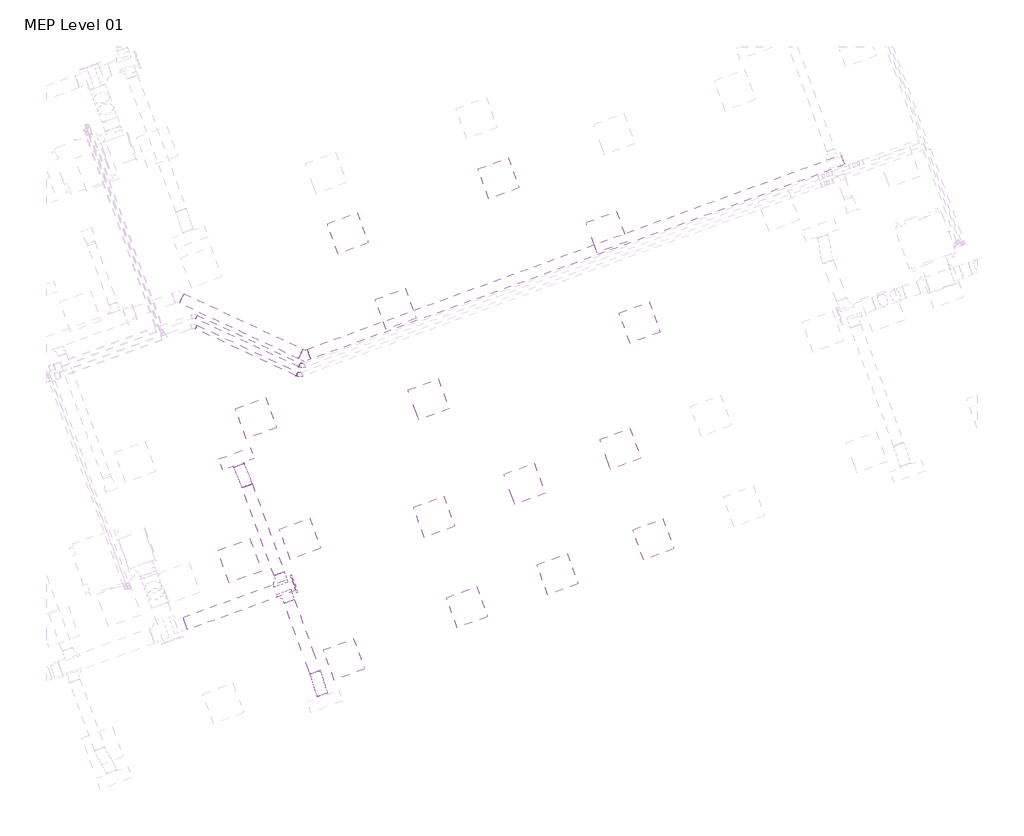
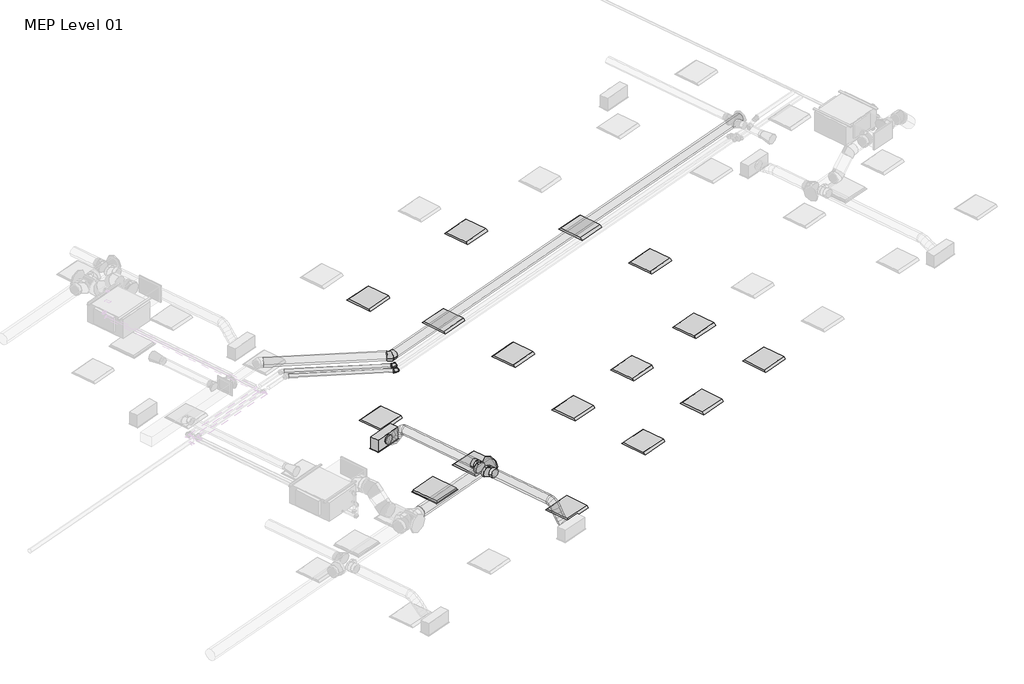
# One storey, part 24 of 29: 15 light fixtures, 7 duct segments, 4 duct fittings, 2 air terminals, 2 pipe fittings, 2 pipe segments.
"""IFC4 building model written with IfcOpenShell, lengths in millimetres."""

from ifc_helpers import new_model, si_unit, point, frame, frame_2d, origin, place, context, project, spatial, circle_curve, ellipse_curve, trimmed, segment, composite_curve, outline, extrude, transform, mapped, element, save
from ifc_brep_helpers import plane_surface, cylinder_surface, advanced_brep
from components import return_grille_rectangular_hosted_standard_7b12617c, supply_diffuser_with_plenum_linear_slot_hosted_8e4f2f20, dw144_round_blank_end_standard_9aa061e7, dw144_round_segmented_bend_slip_joint_standard_e64af1a0, dw144_round_shoe_branch_slip_joint_standard_559552f4, light_fixture_600x600_230_1c7c1157, light_fixture_600x600_230_b730b5ca, elbow_threaded_gmi_standard_79e06f2a

model = new_model("IFC4")

# Units and contexts
model_context = context("Model", 3, world=origin())
ifc_project = project(units=[si_unit("LENGTHUNIT", "METRE", prefix="MILLI")], contexts=[model_context])

# Site, building, storey
site = spatial("IfcSite", under=ifc_project)
building = spatial("IfcBuilding", under=site)
storey = spatial("IfcBuildingStorey", under=building, Name="MEP Level 01", Elevation=3900.0)

# Air terminals
placement = place(None, origin())
return_grille_rectangular_hosted_standard_shape = return_grille_rectangular_hosted_standard_7b12617c(model_context)
element("IfcAirTerminal", 1, ObjectType="Return Grille - Rectangular - Hosted : Standard", at=placement, inside=storey, context=model_context, shape_type="MappedRepresentation", body=[
    mapped(return_grille_rectangular_hosted_standard_shape, transform((48064.0365319, 9235.5552547, 6500.0), x_axis=(0.939692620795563, 0.34202014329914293, 0.0), y_axis=(0.34202014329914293, -0.939692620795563, 0.0), z_axis=(0.0, 0.0, -1.0))),
])
supply_diffuser_with_plenum_linear_slot_hosted_shape = supply_diffuser_with_plenum_linear_slot_hosted_8e4f2f20(model_context)
element("IfcAirTerminal", 2, ObjectType="Supply Diffuser with Plenum - Linear Slot - Hosted : 600mmx193.8mm-200 In Inlet  4-Slot", at=placement, inside=storey, context=model_context, shape_type="MappedRepresentation", body=[
    mapped(supply_diffuser_with_plenum_linear_slot_hosted_shape, transform((48007.2628307, 11142.0221269, 6500.0), x_axis=(0.9396926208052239, 0.3420201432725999, 0.0), y_axis=(0.3420201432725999, -0.9396926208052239, 0.0), z_axis=(0.0, 0.0, -1.0))),
])

# Duct fittings
dw144_round_blank_end_standard_shape = dw144_round_blank_end_standard_9aa061e7(model_context)
element("IfcDuctFitting", 3, ObjectType="DW144 Round Blank End : Standard", at=placement, inside=storey, context=model_context, shape_type="MappedRepresentation", body=[
    mapped(dw144_round_blank_end_standard_shape, transform((49072.7310347, 8798.1556694, 7052.2088531), x_axis=(0.9396926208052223, 0.3420201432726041, 0.0), y_axis=(-0.3420201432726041, 0.9396926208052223, 0.0), z_axis=(0.0, 0.0, 1.0))),
])
dw144_round_segmented_bend_slip_joint_standard_shape = dw144_round_segmented_bend_slip_joint_standard_e64af1a0(model_context)
element("IfcDuctFitting", 4, ObjectType="DW144 Round Segmented Bend - Slip Joint : Standard", at=placement, inside=storey, context=model_context, shape_type="MappedRepresentation", body=[
    mapped(dw144_round_segmented_bend_slip_joint_standard_shape, transform((49279.3686987, 13067.8757559, 7000.0), x_axis=(0.9063077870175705, -0.42261826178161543, 0.0), y_axis=(0.42261826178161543, 0.9063077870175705, 0.0), z_axis=(0.0, 0.0, 1.0))),
])
dw144_round_shoe_branch_slip_joint_standard_shape = dw144_round_shoe_branch_slip_joint_standard_559552f4(model_context)
element("IfcDuctFitting", 5, ObjectType="DW144 Round Shoe Branch - Slip Joint : Standard", at=placement, inside=storey, context=model_context, shape_type="MappedRepresentation", body=[
    mapped(dw144_round_shoe_branch_slip_joint_standard_shape, transform((48939.2384692, 8616.5461275, 7052.2088531), x_axis=(0.34202014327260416, -0.9396926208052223, 0.0), y_axis=(-0.9396926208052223, -0.34202014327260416, 0.0), z_axis=(0.0, 0.0, -1.0))),
])
element("IfcDuctFitting", 6, ObjectType="DW144 Round Shoe Branch - Slip Joint : Standard", at=placement, inside=storey, context=model_context, shape_type="MappedRepresentation", body=[
    mapped(dw144_round_shoe_branch_slip_joint_standard_shape, transform((48853.7334333, 8851.4692827, 7052.2088531), x_axis=(-0.34202014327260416, 0.9396926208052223, 0.0), y_axis=(-0.9396926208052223, -0.34202014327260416, 0.0), z_axis=(0.0, 0.0, 1.0))),
])

# Duct segments
element("IfcDuctSegment", 7, ObjectType="DW144 Segmented Bend / Shoe Branch", at=placement, inside=storey, context=model_context, shape_type="SweptSolid", body=[
    extrude(outline(composite_curve([segment(trimmed(circle_curve(frame_2d((0.0, 125.0)), 125.0), [point((125.0, 125.0))], [point((0.0, 0.0))], False, "CARTESIAN"), True, "CONTINUOUS"), segment(trimmed(circle_curve(frame_2d((0.0, 125.0)), 125.0), [point((0.0, 0.0))], [point((-125.0, 125.0))], False, "CARTESIAN"), True, "CONTINUOUS"), segment(trimmed(circle_curve(frame_2d((0.0, 125.0)), 125.0), [point((-125.0, 125.0))], [point((0.0, 250.0))], False, "CARTESIAN"), True, "CONTINUOUS"), segment(trimmed(circle_curve(frame_2d((0.0, 125.0)), 125.0), [point((0.0, 250.0))], [point((125.0, 125.0))], False, "CARTESIAN"), True, "CONTINUOUS")], self_intersect=False)), frame((47047.5806818, 8061.0612212, 7177.2088531), z_axis=(0.9396926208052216, 0.34202014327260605, 0.0), x_axis=(0.34202014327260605, -0.9396926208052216, 0.0)), (0.0, 0.0, 1.0), 2155.1199914),
])
element("IfcDuctSegment", 8, ObjectType="DW144 Segmented Bend / Shoe Branch", at=placement, inside=storey, context=model_context, shape_type="SweptSolid", body=[
    extrude(outline(composite_curve([segment(trimmed(circle_curve(frame_2d((0.0, -100.0)), 100.0), [point((-100.0, -100.0))], [point((0.0, 0.0))], False, "CARTESIAN"), True, "CONTINUOUS"), segment(trimmed(circle_curve(frame_2d((0.0, -100.0)), 100.0), [point((0.0, 0.0))], [point((100.0, -100.0))], False, "CARTESIAN"), True, "CONTINUOUS"), segment(trimmed(circle_curve(frame_2d((0.0, -100.0)), 100.0), [point((100.0, -100.0))], [point((0.0, -200.0))], False, "CARTESIAN"), True, "CONTINUOUS"), segment(trimmed(circle_curve(frame_2d((0.0, -100.0)), 100.0), [point((0.0, -200.0))], [point((-100.0, -100.0))], False, "CARTESIAN"), True, "CONTINUOUS")], self_intersect=False)), frame((49472.7898927, 7150.6256391, 6952.2088531), z_axis=(-0.3420201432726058, 0.9396926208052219, 0.0), x_axis=(0.9396926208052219, 0.3420201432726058, 0.0)), (0.0, 0.0, 1.0), 1410.0),
])
element("IfcDuctSegment", 9, ObjectType="DW144 Segmented Bend / Shoe Branch", at=placement, inside=storey, context=model_context, shape_type="SweptSolid", body=[
    extrude(outline(composite_curve([segment(trimmed(circle_curve(frame_2d((0.0, 100.0)), 100.0), [point((99.9999999, 100.0))], [point((0.0, 0.0))], False, "CARTESIAN"), True, "CONTINUOUS"), segment(trimmed(circle_curve(frame_2d((0.0, 100.0)), 100.0), [point((0.0, 0.0))], [point((-100.0, 100.0))], False, "CARTESIAN"), True, "CONTINUOUS"), segment(trimmed(circle_curve(frame_2d((0.0, 100.0)), 100.0), [point((-100.0, 100.0))], [point((0.0, 200.0))], False, "CARTESIAN"), True, "CONTINUOUS"), segment(trimmed(circle_curve(frame_2d((0.0, 100.0)), 100.0), [point((0.0, 200.0))], [point((99.9999999, 100.0))], False, "CARTESIAN"), True, "CONTINUOUS")], self_intersect=False)), frame((48802.4304119, 8992.4231759, 7152.2088531), z_axis=(-0.3420201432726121, 0.9396926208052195, 0.0), x_axis=(0.9396926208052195, 0.3420201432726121, 0.0)), (0.0, 0.0, 1.0), 1749.637173),
])
element("IfcDuctSegment", 10, ObjectType="DW144 Segmented Bend / Shoe Branch", at=placement, inside=storey, context=model_context, shape_type="SweptSolid", body=[
    extrude(outline(composite_curve([segment(trimmed(circle_curve(frame_2d((0.0, 100.0)), 100.0), [point((100.0, 100.0))], [point((0.0, 0.0))], False, "CARTESIAN"), True, "CONTINUOUS"), segment(trimmed(circle_curve(frame_2d((0.0, 100.0)), 100.0), [point((0.0, 0.0))], [point((-99.9999999, 100.0))], False, "CARTESIAN"), True, "CONTINUOUS"), segment(trimmed(circle_curve(frame_2d((0.0, 100.0)), 100.0), [point((-99.9999999, 100.0))], [point((0.0, 200.0))], False, "CARTESIAN"), True, "CONTINUOUS"), segment(trimmed(circle_curve(frame_2d((0.0, 100.0)), 100.0), [point((0.0, 200.0))], [point((100.0, 100.0))], False, "CARTESIAN"), True, "CONTINUOUS")], self_intersect=False)), frame((49357.2153843, 13096.2096323, 7100.0), z_axis=(0.9396926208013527, 0.34202014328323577, 0.0), x_axis=(0.34202014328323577, -0.9396926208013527, 0.0)), (0.0, 0.0, 1.0), 10617.3976502),
])
element("IfcDuctSegment", 11, ObjectType="DW144 Segmented Bend / Shoe Branch", at=placement, inside=storey, context=model_context, shape_type="SweptSolid", body=[
    extrude(outline(composite_curve([segment(trimmed(circle_curve(frame_2d((0.0, 100.0)), 100.0), [point((100.0, 100.0))], [point((0.0, 0.0))], False, "CARTESIAN"), True, "CONTINUOUS"), segment(trimmed(circle_curve(frame_2d((0.0, 100.0)), 100.0), [point((0.0, 0.0))], [point((-100.0, 100.0))], False, "CARTESIAN"), True, "CONTINUOUS"), segment(trimmed(circle_curve(frame_2d((0.0, 100.0)), 100.0), [point((-100.0, 100.0))], [point((0.0, 200.0))], False, "CARTESIAN"), True, "CONTINUOUS"), segment(trimmed(circle_curve(frame_2d((0.0, 100.0)), 100.0), [point((0.0, 200.0))], [point((100.0, 100.0))], False, "CARTESIAN"), True, "CONTINUOUS")], self_intersect=False)), frame((49204.2877033, 13102.886599, 7100.0), z_axis=(-0.9063077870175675, 0.4226182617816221, 0.0), x_axis=(0.4226182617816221, 0.9063077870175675, 0.0)), (0.0, 0.0, 1.0), 2451.965434),
])
element("IfcDuctSegment", 12, ObjectType="Flex - Round", at=placement, inside=storey, context=model_context, shape_type="AdvancedBrep", body=[
    advanced_brep(
    [(49566.7591548, 7184.8276534, 7052.2088531), (49472.7898927, 7150.6256391, 6952.2088531), (49378.8206306, 7116.4236248, 7052.2088531), (49472.7898927, 7150.6256391, 7152.2088531), (49575.2907546, 7161.3872755, 7052.2088531), (49474.6691371, 7145.4624575, 6952.2088531), (49386.9543252, 7094.0764825, 7052.2088531), (49487.5759427, 7110.0013005, 7152.2088531), (49707.2689937, 6762.922244, 6654.4), (49613.2997316, 6728.7202297, 6754.4), (49519.3304695, 6694.5182154, 6654.4), (49613.2997316, 6728.7202297, 6554.4), (49590.0548191, 7119.2485315, 7034.7378026), (49478.7608231, 7133.7842024, 6947.3669579), (49401.0800301, 7053.7597078, 7035.4932053), (49512.374026, 7039.2240369, 7122.8640501), (49608.5697205, 7064.2714613, 6989.165631), (49490.3762668, 7099.2939805, 6918.7769601), (49419.1822461, 7000.0080419, 6990.9368086), (49537.3756998, 6964.9855228, 7061.3254796), (49623.9972059, 7016.1051382, 6925.0457422), (49502.5188441, 7061.3835053, 6868.3098433), (49434.4132473, 6952.455164, 6927.6335492), (49555.8916091, 6907.1767969, 6984.3694481), (49637.861176, 6971.4193261, 6851.881839), (49515.5674695, 7019.3256805, 6799.4487335), (49448.2284483, 6907.9265427, 6854.7270141), (49570.5221548, 6860.0201882, 6907.1601196), (49651.676377, 6926.8907048, 6778.9753039), (49530.1980152, 6972.1690719, 6722.239405), (49462.0924184, 6863.2407305, 6781.5631109), (49583.5707802, 6817.9623635, 6838.2990098), (49666.9073782, 6879.3378269, 6715.6720445), (49548.7139245, 6914.360346, 6645.2833736), (49477.5199037, 6815.0744074, 6717.4432221), (49595.7133575, 6780.0518883, 6787.831893), (49685.0095942, 6825.5861609, 6671.1156478), (49573.7155983, 6840.1218319, 6583.7448031), (49496.0348052, 6760.0973373, 6671.8710505), (49607.3288011, 6745.5616664, 6759.2418952), (49699.1352991, 6785.2693863, 6654.4), (49598.5136816, 6769.3445683, 6554.4), (49510.7988697, 6717.9585933, 6654.4), (49611.4204872, 6733.8834113, 6754.4)],
    [
        (0, 1, circle_curve(frame((49472.7898927, 7150.6256391, 7052.2088531), z_axis=(-0.34202014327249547, 0.939692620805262, 0.0), x_axis=(0.939692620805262, 0.34202014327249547, 0.0)), 100.0)),
        (1, 2, circle_curve(frame((49472.7898927, 7150.6256391, 7052.2088531), z_axis=(-0.34202014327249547, 0.939692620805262, 0.0), x_axis=(0.939692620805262, 0.34202014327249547, 0.0)), 100.0)),
        (2, 3, circle_curve(frame((49472.7898927, 7150.6256391, 7052.2088531), z_axis=(-0.34202014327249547, 0.939692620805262, 0.0), x_axis=(0.939692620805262, 0.34202014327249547, 0.0)), 100.0)),
        (3, 0, circle_curve(frame((49472.7898927, 7150.6256391, 7052.2088531), z_axis=(-0.34202014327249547, 0.939692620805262, 0.0), x_axis=(0.939692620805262, 0.34202014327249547, 0.0)), 100.0)),
        (0, 4),
        (4, 5, ellipse_curve(frame((49481.1225399, 7127.731879, 7052.2088531), z_axis=(-0.3307129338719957, 0.9253388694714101, 0.185410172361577), x_axis=(-0.0918977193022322, 0.1639550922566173, -0.9821779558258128)), 101.7661938, 100.0)),
        (5, 1),
        (5, 6, ellipse_curve(frame((49481.1225399, 7127.731879, 7052.2088531), z_axis=(-0.3307129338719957, 0.9253388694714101, 0.185410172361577), x_axis=(-0.0918977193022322, 0.1639550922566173, -0.9821779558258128)), 101.7661938, 100.0)),
        (6, 2),
        (6, 7, ellipse_curve(frame((49481.1225399, 7127.731879, 7052.2088531), z_axis=(-0.3307129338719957, 0.9253388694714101, 0.185410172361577), x_axis=(-0.0918977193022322, 0.1639550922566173, -0.9821779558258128)), 101.7661938, 100.0)),
        (7, 3),
        (7, 4, ellipse_curve(frame((49481.1225399, 7127.731879, 7052.2088531), z_axis=(-0.3307129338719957, 0.9253388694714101, 0.185410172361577), x_axis=(-0.0918977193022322, 0.1639550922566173, -0.9821779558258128)), 101.7661938, 100.0)),
        (8, 9, circle_curve(frame((49613.2997316, 6728.7202297, 6654.4), z_axis=(0.34202014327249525, -0.9396926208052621, 0.0), x_axis=(0.9396926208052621, 0.34202014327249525, 0.0)), 100.0)),
        (9, 10, circle_curve(frame((49613.2997316, 6728.7202297, 6654.4), z_axis=(0.34202014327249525, -0.9396926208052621, 0.0), x_axis=(0.9396926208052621, 0.34202014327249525, 0.0)), 100.0)),
        (10, 11, circle_curve(frame((49613.2997316, 6728.7202297, 6654.4), z_axis=(0.34202014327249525, -0.9396926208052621, 0.0), x_axis=(0.9396926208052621, 0.34202014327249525, 0.0)), 100.0)),
        (11, 8, circle_curve(frame((49613.2997316, 6728.7202297, 6654.4), z_axis=(0.34202014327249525, -0.9396926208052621, 0.0), x_axis=(0.9396926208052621, 0.34202014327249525, 0.0)), 100.0)),
        (4, 12),
        (12, 13, ellipse_curve(frame((49495.5674246, 7086.5041197, 7035.115504), z_axis=(-0.2824808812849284, 0.8208536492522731, 0.4963908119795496), x_axis=(-0.19498919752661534, 0.45752877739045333, -0.8675520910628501)), 101.0835412, 100.0)),
        (13, 5),
        (13, 14, ellipse_curve(frame((49495.5674246, 7086.5041197, 7035.115504), z_axis=(-0.2824808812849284, 0.8208536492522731, 0.4963908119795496), x_axis=(-0.19498919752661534, 0.45752877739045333, -0.8675520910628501)), 101.0835412, 100.0)),
        (14, 6),
        (14, 15, ellipse_curve(frame((49495.5674246, 7086.5041197, 7035.115504), z_axis=(-0.2824808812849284, 0.8208536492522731, 0.4963908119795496), x_axis=(-0.19498919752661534, 0.45752877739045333, -0.8675520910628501)), 101.0835412, 100.0)),
        (15, 7),
        (15, 12, ellipse_curve(frame((49495.5674246, 7086.5041197, 7035.115504), z_axis=(-0.2824808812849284, 0.8208536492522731, 0.4963908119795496), x_axis=(-0.19498919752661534, 0.45752877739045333, -0.8675520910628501)), 101.0835412, 100.0)),
        (12, 16),
        (16, 17, ellipse_curve(frame((49513.8759833, 7032.1397516, 6990.0512198), z_axis=(-0.22150126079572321, 0.6722448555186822, 0.7064163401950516), x_axis=(-0.26220874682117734, 0.6566735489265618, -0.7071254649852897)), 100.707905, 100.0)),
        (17, 13),
        (17, 18, ellipse_curve(frame((49513.8759833, 7032.1397516, 6990.0512198), z_axis=(-0.22150126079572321, 0.6722448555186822, 0.7064163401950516), x_axis=(-0.26220874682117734, 0.6566735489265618, -0.7071254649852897)), 100.707905, 100.0)),
        (18, 14),
        (18, 19, ellipse_curve(frame((49513.8759833, 7032.1397516, 6990.0512198), z_axis=(-0.22150126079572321, 0.6722448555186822, 0.7064163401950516), x_axis=(-0.26220874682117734, 0.6566735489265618, -0.7071254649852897)), 100.707905, 100.0)),
        (19, 15),
        (19, 16, ellipse_curve(frame((49513.8759833, 7032.1397516, 6990.0512198), z_axis=(-0.22150126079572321, 0.6722448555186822, 0.7064163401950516), x_axis=(-0.26220874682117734, 0.6566735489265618, -0.7071254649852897)), 100.707905, 100.0)),
        (16, 20),
        (20, 21, ellipse_curve(frame((49529.2052266, 6984.2801511, 6926.3396457), z_axis=(-0.17448909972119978, 0.5528501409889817, 0.8148068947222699), x_axis=(-0.2955838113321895, 0.759927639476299, -0.5789129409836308)), 100.1227823, 100.0)),
        (21, 17),
        (21, 22, ellipse_curve(frame((49529.2052266, 6984.2801511, 6926.3396457), z_axis=(-0.17448909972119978, 0.5528501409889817, 0.8148068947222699), x_axis=(-0.2955838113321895, 0.759927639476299, -0.5789129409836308)), 100.1227823, 100.0)),
        (22, 18),
        (22, 23, ellipse_curve(frame((49529.2052266, 6984.2801511, 6926.3396457), z_axis=(-0.17448909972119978, 0.5528501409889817, 0.8148068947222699), x_axis=(-0.2955838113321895, 0.759927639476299, -0.5789129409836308)), 100.1227823, 100.0)),
        (23, 19),
        (23, 20, ellipse_curve(frame((49529.2052266, 6984.2801511, 6926.3396457), z_axis=(-0.17448909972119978, 0.5528501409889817, 0.8148068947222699), x_axis=(-0.2955838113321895, 0.759927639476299, -0.5789129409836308)), 100.1227823, 100.0)),
        (20, 24),
        (24, 25, circle_curve(frame((49543.0448121, 6939.6729344, 6853.3044266), z_axis=(-0.15964109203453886, 0.514548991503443, 0.8424690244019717), x_axis=(0.9481636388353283, 0.31746391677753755, -0.014225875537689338)), 100.0)),
        (25, 21),
        (25, 26, circle_curve(frame((49543.0448121, 6939.6729344, 6853.3044266), z_axis=(-0.15964109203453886, 0.514548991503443, 0.8424690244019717), x_axis=(0.9481636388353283, 0.31746391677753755, -0.014225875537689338)), 100.0)),
        (26, 22),
        (26, 27, circle_curve(frame((49543.0448121, 6939.6729344, 6853.3044266), z_axis=(-0.15964109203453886, 0.514548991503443, 0.8424690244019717), x_axis=(0.9481636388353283, 0.31746391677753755, -0.014225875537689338)), 100.0)),
        (27, 23),
        (27, 24, circle_curve(frame((49543.0448121, 6939.6729344, 6853.3044266), z_axis=(-0.15964109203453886, 0.514548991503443, 0.8424690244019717), x_axis=(0.9481636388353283, 0.31746391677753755, -0.014225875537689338)), 100.0)),
        (24, 28),
        (28, 29, ellipse_curve(frame((49556.8843977, 6895.0657177, 6780.2692074), z_axis=(-0.17448909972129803, 0.5528501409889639, 0.8148068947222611), x_axis=(0.29558381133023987, -0.7599276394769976, 0.5789129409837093)), 100.1227823, 100.0)),
        (29, 25),
        (29, 30, ellipse_curve(frame((49556.8843977, 6895.0657177, 6780.2692074), z_axis=(-0.17448909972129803, 0.5528501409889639, 0.8148068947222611), x_axis=(0.29558381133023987, -0.7599276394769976, 0.5789129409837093)), 100.1227823, 100.0)),
        (30, 26),
        (30, 31, ellipse_curve(frame((49556.8843977, 6895.0657177, 6780.2692074), z_axis=(-0.17448909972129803, 0.5528501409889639, 0.8148068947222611), x_axis=(0.29558381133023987, -0.7599276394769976, 0.5789129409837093)), 100.1227823, 100.0)),
        (31, 27),
        (31, 28, ellipse_curve(frame((49556.8843977, 6895.0657177, 6780.2692074), z_axis=(-0.17448909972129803, 0.5528501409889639, 0.8148068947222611), x_axis=(0.29558381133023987, -0.7599276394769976, 0.5789129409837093)), 100.1227823, 100.0)),
        (28, 32),
        (32, 33, ellipse_curve(frame((49572.213641, 6847.2061172, 6716.5576333), z_axis=(-0.22150126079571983, 0.672244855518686, 0.7064163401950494), x_axis=(0.26220874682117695, -0.656673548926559, 0.7071254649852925)), 100.707905, 100.0)),
        (33, 29),
        (33, 34, ellipse_curve(frame((49572.213641, 6847.2061172, 6716.5576333), z_axis=(-0.22150126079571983, 0.672244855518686, 0.7064163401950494), x_axis=(0.26220874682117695, -0.656673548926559, 0.7071254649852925)), 100.707905, 100.0)),
        (34, 30),
        (34, 35, ellipse_curve(frame((49572.213641, 6847.2061172, 6716.5576333), z_axis=(-0.22150126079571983, 0.672244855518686, 0.7064163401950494), x_axis=(0.26220874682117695, -0.656673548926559, 0.7071254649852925)), 100.707905, 100.0)),
        (35, 31),
        (35, 32, ellipse_curve(frame((49572.213641, 6847.2061172, 6716.5576333), z_axis=(-0.22150126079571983, 0.672244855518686, 0.7064163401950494), x_axis=(0.26220874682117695, -0.656673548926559, 0.7071254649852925)), 100.707905, 100.0)),
        (32, 36),
        (36, 37, ellipse_curve(frame((49590.5221997, 6792.8417491, 6671.4933492), z_axis=(-0.2824808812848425, 0.8208536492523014, 0.49639081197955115), x_axis=(0.1949891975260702, -0.4575287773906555, 0.8675520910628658)), 101.0835412, 100.0)),
        (37, 33),
        (37, 38, ellipse_curve(frame((49590.5221997, 6792.8417491, 6671.4933492), z_axis=(-0.2824808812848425, 0.8208536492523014, 0.49639081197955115), x_axis=(0.1949891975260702, -0.4575287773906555, 0.8675520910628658)), 101.0835412, 100.0)),
        (38, 34),
        (38, 39, ellipse_curve(frame((49590.5221997, 6792.8417491, 6671.4933492), z_axis=(-0.2824808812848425, 0.8208536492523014, 0.49639081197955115), x_axis=(0.1949891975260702, -0.4575287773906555, 0.8675520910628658)), 101.0835412, 100.0)),
        (39, 35),
        (39, 36, ellipse_curve(frame((49590.5221997, 6792.8417491, 6671.4933492), z_axis=(-0.2824808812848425, 0.8208536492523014, 0.49639081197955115), x_axis=(0.1949891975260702, -0.4575287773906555, 0.8675520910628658)), 101.0835412, 100.0)),
        (36, 40),
        (40, 41, ellipse_curve(frame((49604.9670844, 6751.6139898, 6654.4), z_axis=(-0.3307129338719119, 0.92533886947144, 0.18541017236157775), x_axis=(0.09189771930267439, -0.16395509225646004, 0.9821779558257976)), 101.7661938, 100.0)),
        (41, 37),
        (41, 42, ellipse_curve(frame((49604.9670844, 6751.6139898, 6654.4), z_axis=(-0.3307129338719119, 0.92533886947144, 0.18541017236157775), x_axis=(0.09189771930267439, -0.16395509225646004, 0.9821779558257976)), 101.7661938, 100.0)),
        (42, 38),
        (42, 43, ellipse_curve(frame((49604.9670844, 6751.6139898, 6654.4), z_axis=(-0.3307129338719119, 0.92533886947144, 0.18541017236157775), x_axis=(0.09189771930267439, -0.16395509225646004, 0.9821779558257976)), 101.7661938, 100.0)),
        (43, 39),
        (43, 40, ellipse_curve(frame((49604.9670844, 6751.6139898, 6654.4), z_axis=(-0.3307129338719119, 0.92533886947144, 0.18541017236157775), x_axis=(0.09189771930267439, -0.16395509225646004, 0.9821779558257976)), 101.7661938, 100.0)),
        (40, 8),
        (11, 41),
        (10, 42),
        (9, 43),
    ],
    [
        plane_surface(frame((49472.7898927, 7150.6256391, 6952.2088531), z_axis=(-0.3420201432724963, 0.9396926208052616, 0.0), x_axis=(0.9396926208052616, 0.3420201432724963, 0.0))),
        cylinder_surface(frame((49472.7898927, 7150.6256391, 7052.2088531), z_axis=(-0.34202014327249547, 0.939692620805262, 0.0), x_axis=(0.939692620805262, 0.34202014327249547, 0.0)), 100.0),
        plane_surface(frame((49613.2997316, 6728.7202297, 6554.4), z_axis=(0.3420201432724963, -0.9396926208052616, 0.0), x_axis=(0.9396926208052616, 0.3420201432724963, 0.0))),
        cylinder_surface(frame((49481.1225399, 7127.731879, 7052.2088531), z_axis=(-0.30792640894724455, 0.8788658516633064, 0.3643846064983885), x_axis=(0.9434733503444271, 0.33144161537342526, -0.0021196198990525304)), 100.0),
        cylinder_surface(frame((49495.5674246, 7086.5041197, 7035.115504), z_axis=(-0.25097937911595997, 0.7452435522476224, 0.6177551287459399), x_axis=(0.9460155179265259, 0.3240543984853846, -0.006586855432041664)), 100.0),
        cylinder_surface(frame((49513.8759833, 7032.1397516, 6990.0512198), z_axis=(-0.18890914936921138, 0.5897953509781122, 0.7851463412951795), x_axis=(0.9476312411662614, 0.31915076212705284, -0.011739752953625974)), 100.0),
        cylinder_surface(frame((49529.2052266, 6984.2801511, 6926.3396457), z_axis=(-0.15964109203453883, 0.5145489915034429, 0.8424690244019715), x_axis=(0.9481636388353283, 0.31746391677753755, -0.014225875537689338)), 100.0),
        cylinder_surface(frame((49543.0448121, 6939.6729344, 6853.3044266), z_axis=(-0.15964109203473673, 0.5145489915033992, 0.8424690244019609), x_axis=(0.9481636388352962, 0.3174639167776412, -0.014225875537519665)), 100.0),
        cylinder_surface(frame((49556.8843977, 6895.0657177, 6780.2692074), z_axis=(-0.18890914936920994, 0.589795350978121, 0.7851463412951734), x_axis=(0.9476312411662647, 0.31915076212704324, -0.011739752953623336)), 100.0),
        cylinder_surface(frame((49572.213641, 6847.2061172, 6716.5576333), z_axis=(-0.25097937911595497, 0.745243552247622, 0.6177551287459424), x_axis=(0.9460155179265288, 0.32405439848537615, -0.006586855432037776)), 100.0),
        cylinder_surface(frame((49590.5221997, 6792.8417491, 6671.4933492), z_axis=(-0.3079264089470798, 0.8788658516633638, 0.3643846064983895), x_axis=(0.9434733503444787, 0.33144161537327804, -0.002119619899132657)), 100.0),
        cylinder_surface(frame((49604.9670844, 6751.6139898, 6654.4), z_axis=(-0.34202014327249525, 0.9396926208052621, 0.0), x_axis=(0.9396926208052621, 0.34202014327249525, 0.0)), 100.0),
    ],
    [
        (0, [[1, 2, 3, 4]]),
        (1, [[-1, 5, 6, 7]]),
        (1, [[-2, -7, 8, 9]]),
        (1, [[-3, -9, 10, 11]]),
        (1, [[-4, -11, 12, -5]]),
        (2, [[13, 14, 15, 16]]),
        (3, [[-6, 17, 18, 19]]),
        (3, [[-8, -19, 20, 21]]),
        (3, [[-10, -21, 22, 23]]),
        (3, [[-12, -23, 24, -17]]),
        (4, [[-18, 25, 26, 27]]),
        (4, [[-20, -27, 28, 29]]),
        (4, [[-22, -29, 30, 31]]),
        (4, [[-24, -31, 32, -25]]),
        (5, [[-26, 33, 34, 35]]),
        (5, [[-28, -35, 36, 37]]),
        (5, [[-30, -37, 38, 39]]),
        (5, [[-32, -39, 40, -33]]),
        (6, [[-34, 41, 42, 43]]),
        (6, [[-36, -43, 44, 45]]),
        (6, [[-38, -45, 46, 47]]),
        (6, [[-40, -47, 48, -41]]),
        (7, [[-42, 49, 50, 51]]),
        (7, [[-44, -51, 52, 53]]),
        (7, [[-46, -53, 54, 55]]),
        (7, [[-48, -55, 56, -49]]),
        (8, [[-50, 57, 58, 59]]),
        (8, [[-52, -59, 60, 61]]),
        (8, [[-54, -61, 62, 63]]),
        (8, [[-56, -63, 64, -57]]),
        (9, [[-58, 65, 66, 67]]),
        (9, [[-60, -67, 68, 69]]),
        (9, [[-62, -69, 70, 71]]),
        (9, [[-64, -71, 72, -65]]),
        (10, [[-66, 73, 74, 75]]),
        (10, [[-68, -75, 76, 77]]),
        (10, [[-70, -77, 78, 79]]),
        (10, [[-72, -79, 80, -73]]),
        (11, [[-74, 81, -16, 82]]),
        (11, [[-76, -82, -15, 83]]),
        (11, [[-78, -83, -14, 84]]),
        (11, [[-80, -84, -13, -81]]),
    ],
),
])
element("IfcDuctSegment", 13, ObjectType="Flex - Round", at=placement, inside=storey, context=model_context, shape_type="AdvancedBrep", body=[
    advanced_brep(
    [(48110.0499932, 10602.3423021, 7052.2088531), (48204.0192553, 10636.5443165, 6952.2088531), (48297.9885173, 10670.7463308, 7052.2088531), (48204.0192553, 10636.5443165, 7152.2088531), (48101.5456158, 10625.7078869, 7052.2088531), (48202.4089934, 10640.9684745, 6952.2088531), (48289.0550212, 10695.2909097, 7052.2088531), (48188.1916436, 10680.030322, 7152.2088531), (47957.3799651, 10986.6937338, 6654.4), (48051.3492272, 11020.8957481, 6754.4), (48145.3184893, 11055.0977624, 6654.4), (48051.3492272, 11020.8957481, 6554.4), (48087.951701, 10661.5859336, 7035.5408326), (48199.9610053, 10647.4293824, 6949.207281), (48274.7673369, 10733.0000031, 7034.6901753), (48162.7580326, 10747.1565543, 7121.0237269), (48068.5844947, 10710.8661941, 6990.9995344), (48187.9005637, 10678.1174278, 6921.4703054), (48254.9453269, 10783.4375213, 6989.1029053), (48135.6292579, 10816.1862876, 7058.6321343), (48051.150449, 10753.1809184, 6927.7131973), (48174.2305242, 10711.2964134, 6871.8474731), (48237.2769936, 10826.3208924, 6924.9660941), (48114.1969184, 10868.2053974, 6980.8318183), (48034.650821, 10792.0796675, 6854.8098789), (48158.6900873, 10747.9338184, 6803.1823241), (48220.7176615, 10865.3603971, 6851.7989742), (48096.6783951, 10909.5062462, 6903.426529), (48018.0914889, 10831.1191721, 6781.642759), (48141.171564, 10789.2346672, 6725.7770348), (48204.2180334, 10904.2591462, 6778.8956558), (48081.1379582, 10946.1436511, 6834.7613801), (48000.4231556, 10874.0025433, 6717.5059479), (48119.7392246, 10841.253777, 6647.9767188), (48186.7839878, 10946.5738704, 6715.6093187), (48067.4679188, 10979.3226367, 6785.1385478), (47980.6011455, 10924.4400615, 6671.9186778), (48092.6104499, 10910.2835103, 6585.5851262), (48167.4167815, 10995.8541309, 6671.0680205), (48055.4074771, 11010.0106822, 6757.4015721), (47966.3134612, 10962.1491549, 6654.4), (48067.1768388, 10977.4097425, 6554.4), (48153.8228666, 11031.7321777, 6654.4), (48052.959489, 11016.47159, 6754.4)],
    [
        (0, 1, circle_curve(frame((48204.0192553, 10636.5443165, 7052.2088531), z_axis=(0.34202014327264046, -0.9396926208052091, 0.0), x_axis=(-0.9396926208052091, -0.34202014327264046, 0.0)), 100.0)),
        (1, 2, circle_curve(frame((48204.0192553, 10636.5443165, 7052.2088531), z_axis=(0.34202014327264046, -0.9396926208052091, 0.0), x_axis=(-0.9396926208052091, -0.34202014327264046, 0.0)), 100.0)),
        (2, 3, circle_curve(frame((48204.0192553, 10636.5443165, 7052.2088531), z_axis=(0.34202014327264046, -0.9396926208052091, 0.0), x_axis=(-0.9396926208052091, -0.34202014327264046, 0.0)), 100.0)),
        (3, 0, circle_curve(frame((48204.0192553, 10636.5443165, 7052.2088531), z_axis=(0.34202014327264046, -0.9396926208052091, 0.0), x_axis=(-0.9396926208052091, -0.34202014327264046, 0.0)), 100.0)),
        (0, 4),
        (4, 5, ellipse_curve(frame((48195.3003185, 10660.4993983, 7052.2088531), z_axis=(0.3406289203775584, -0.9179124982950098, 0.20349099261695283), x_axis=(0.0418738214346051, -0.20140838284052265, -0.9786118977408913)), 102.1390414, 100.0)),
        (5, 1),
        (5, 6, ellipse_curve(frame((48195.3003185, 10660.4993983, 7052.2088531), z_axis=(0.3406289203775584, -0.9179124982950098, 0.20349099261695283), x_axis=(0.0418738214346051, -0.20140838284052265, -0.9786118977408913)), 102.1390414, 100.0)),
        (6, 2),
        (6, 7, ellipse_curve(frame((48195.3003185, 10660.4993983, 7052.2088531), z_axis=(0.3406289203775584, -0.9179124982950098, 0.20349099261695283), x_axis=(0.0418738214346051, -0.20140838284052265, -0.9786118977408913)), 102.1390414, 100.0)),
        (7, 3),
        (7, 4, ellipse_curve(frame((48195.3003185, 10660.4993983, 7052.2088531), z_axis=(0.3406289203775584, -0.9179124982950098, 0.20349099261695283), x_axis=(0.0418738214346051, -0.20140838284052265, -0.9786118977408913)), 102.1390414, 100.0)),
        (8, 9, circle_curve(frame((48051.3492272, 11020.8957481, 6654.4), z_axis=(-0.3420201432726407, 0.9396926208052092, 0.0), x_axis=(-0.939692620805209, -0.34202014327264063, 0.0)), 100.0)),
        (9, 10, circle_curve(frame((48051.3492272, 11020.8957481, 6654.4), z_axis=(-0.3420201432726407, 0.9396926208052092, 0.0), x_axis=(-0.939692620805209, -0.34202014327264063, 0.0)), 100.0)),
        (10, 11, circle_curve(frame((48051.3492272, 11020.8957481, 6654.4), z_axis=(-0.3420201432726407, 0.9396926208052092, 0.0), x_axis=(-0.939692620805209, -0.34202014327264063, 0.0)), 100.0)),
        (11, 8, circle_curve(frame((48051.3492272, 11020.8957481, 6654.4), z_axis=(-0.3420201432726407, 0.9396926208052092, 0.0), x_axis=(-0.939692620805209, -0.34202014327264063, 0.0)), 100.0)),
        (4, 12),
        (12, 13, ellipse_curve(frame((48181.359519, 10697.2929683, 7035.115504), z_axis=(0.30563861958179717, -0.7932625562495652, 0.5266113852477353), x_axis=(0.15609776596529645, -0.5038483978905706, -0.8495706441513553)), 101.0584433, 100.0)),
        (13, 5),
        (13, 14, ellipse_curve(frame((48181.359519, 10697.2929683, 7035.115504), z_axis=(0.30563861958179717, -0.7932625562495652, 0.5266113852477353), x_axis=(0.15609776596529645, -0.5038483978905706, -0.8495706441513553)), 101.0584433, 100.0)),
        (14, 6),
        (14, 15, ellipse_curve(frame((48181.359519, 10697.2929683, 7035.115504), z_axis=(0.30563861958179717, -0.7932625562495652, 0.5266113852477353), x_axis=(0.15609776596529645, -0.5038483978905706, -0.8495706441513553)), 101.0584433, 100.0)),
        (15, 7),
        (15, 12, ellipse_curve(frame((48181.359519, 10697.2929683, 7035.115504), z_axis=(0.30563861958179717, -0.7932625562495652, 0.5266113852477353), x_axis=(0.15609776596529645, -0.5038483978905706, -0.8495706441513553)), 101.0584433, 100.0)),
        (12, 16),
        (16, 17, ellipse_curve(frame((48161.7649108, 10747.1518577, 6990.0512198), z_axis=(0.2534740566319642, -0.6317684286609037, 0.7325432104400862), x_axis=(0.23137065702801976, -0.695699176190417, -0.6800516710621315)), 100.7586488, 100.0)),
        (17, 13),
        (17, 18, ellipse_curve(frame((48161.7649108, 10747.1518577, 6990.0512198), z_axis=(0.2534740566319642, -0.6317684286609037, 0.7325432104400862), x_axis=(0.23137065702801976, -0.695699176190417, -0.6800516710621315)), 100.7586488, 100.0)),
        (18, 14),
        (18, 19, ellipse_curve(frame((48161.7649108, 10747.1518577, 6990.0512198), z_axis=(0.2534740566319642, -0.6317684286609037, 0.7325432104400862), x_axis=(0.23137065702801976, -0.695699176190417, -0.6800516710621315)), 100.7586488, 100.0)),
        (19, 15),
        (19, 16, ellipse_curve(frame((48161.7649108, 10747.1518577, 6990.0512198), z_axis=(0.2534740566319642, -0.6317684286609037, 0.7325432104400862), x_axis=(0.23137065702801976, -0.695699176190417, -0.6800516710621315)), 100.7586488, 100.0)),
        (16, 20),
        (20, 21, ellipse_curve(frame((48144.2137213, 10789.7509054, 6926.3396457), z_axis=(0.20978625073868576, -0.5023580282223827, 0.8388242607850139), x_axis=(0.2716085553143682, -0.7942072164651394, -0.5435657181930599)), 100.127598, 100.0)),
        (21, 17),
        (21, 22, ellipse_curve(frame((48144.2137213, 10789.7509054, 6926.3396457), z_axis=(0.20978625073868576, -0.5023580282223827, 0.8388242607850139), x_axis=(0.2716085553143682, -0.7942072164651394, -0.5435657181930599)), 100.127598, 100.0)),
        (22, 18),
        (22, 23, ellipse_curve(frame((48144.2137213, 10789.7509054, 6926.3396457), z_axis=(0.20978625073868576, -0.5023580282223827, 0.8388242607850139), x_axis=(0.2716085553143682, -0.7942072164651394, -0.5435657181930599)), 100.127598, 100.0)),
        (23, 19),
        (23, 20, ellipse_curve(frame((48144.2137213, 10789.7509054, 6926.3396457), z_axis=(0.20978625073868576, -0.5023580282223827, 0.8388242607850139), x_axis=(0.2716085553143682, -0.7942072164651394, -0.5435657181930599)), 100.127598, 100.0)),
        (20, 24),
        (24, 25, circle_curve(frame((48127.6842412, 10828.7200323, 6853.3044266), z_axis=(0.1958111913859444, -0.46163527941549, 0.8651883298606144), x_axis=(-0.9303342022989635, -0.3664036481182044, 0.015054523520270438)), 100.0)),
        (25, 21),
        (25, 26, circle_curve(frame((48127.6842412, 10828.7200323, 6853.3044266), z_axis=(0.1958111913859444, -0.46163527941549, 0.8651883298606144), x_axis=(-0.9303342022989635, -0.3664036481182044, 0.015054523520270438)), 100.0)),
        (26, 22),
        (26, 27, circle_curve(frame((48127.6842412, 10828.7200323, 6853.3044266), z_axis=(0.1958111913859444, -0.46163527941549, 0.8651883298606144), x_axis=(-0.9303342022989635, -0.3664036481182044, 0.015054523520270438)), 100.0)),
        (27, 23),
        (27, 24, circle_curve(frame((48127.6842412, 10828.7200323, 6853.3044266), z_axis=(0.1958111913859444, -0.46163527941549, 0.8651883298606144), x_axis=(-0.9303342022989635, -0.3664036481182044, 0.015054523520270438)), 100.0)),
        (24, 28),
        (28, 29, ellipse_curve(frame((48111.1547611, 10867.6891592, 6780.2692074), z_axis=(0.2097862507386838, -0.5023580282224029, 0.8388242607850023), x_axis=(-0.2716085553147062, 0.7942072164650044, 0.5435657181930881)), 100.127598, 100.0)),
        (29, 25),
        (29, 30, ellipse_curve(frame((48111.1547611, 10867.6891592, 6780.2692074), z_axis=(0.2097862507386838, -0.5023580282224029, 0.8388242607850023), x_axis=(-0.2716085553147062, 0.7942072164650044, 0.5435657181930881)), 100.127598, 100.0)),
        (30, 26),
        (30, 31, ellipse_curve(frame((48111.1547611, 10867.6891592, 6780.2692074), z_axis=(0.2097862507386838, -0.5023580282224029, 0.8388242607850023), x_axis=(-0.2716085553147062, 0.7942072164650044, 0.5435657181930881)), 100.127598, 100.0)),
        (31, 27),
        (31, 28, ellipse_curve(frame((48111.1547611, 10867.6891592, 6780.2692074), z_axis=(0.2097862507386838, -0.5023580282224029, 0.8388242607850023), x_axis=(-0.2716085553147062, 0.7942072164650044, 0.5435657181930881)), 100.127598, 100.0)),
        (28, 32),
        (32, 33, ellipse_curve(frame((48093.6035717, 10910.2882069, 6716.5576333), z_axis=(0.25347405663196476, -0.6317684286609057, 0.7325432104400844), x_axis=(-0.23137065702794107, 0.6956991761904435, 0.680051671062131)), 100.7586488, 100.0)),
        (33, 29),
        (33, 34, ellipse_curve(frame((48093.6035717, 10910.2882069, 6716.5576333), z_axis=(0.25347405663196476, -0.6317684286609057, 0.7325432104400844), x_axis=(-0.23137065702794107, 0.6956991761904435, 0.680051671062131)), 100.7586488, 100.0)),
        (34, 30),
        (34, 35, ellipse_curve(frame((48093.6035717, 10910.2882069, 6716.5576333), z_axis=(0.25347405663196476, -0.6317684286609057, 0.7325432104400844), x_axis=(-0.23137065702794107, 0.6956991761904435, 0.680051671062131)), 100.7586488, 100.0)),
        (35, 31),
        (35, 32, ellipse_curve(frame((48093.6035717, 10910.2882069, 6716.5576333), z_axis=(0.25347405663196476, -0.6317684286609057, 0.7325432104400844), x_axis=(-0.23137065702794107, 0.6956991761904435, 0.680051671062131)), 100.7586488, 100.0)),
        (32, 36),
        (36, 37, ellipse_curve(frame((48074.0089635, 10960.1470962, 6671.4933492), z_axis=(0.3056386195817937, -0.7932625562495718, 0.5266113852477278), x_axis=(-0.1560977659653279, 0.5038483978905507, 0.8495706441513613)), 101.0584433, 100.0)),
        (37, 33),
        (37, 38, ellipse_curve(frame((48074.0089635, 10960.1470962, 6671.4933492), z_axis=(0.3056386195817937, -0.7932625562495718, 0.5266113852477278), x_axis=(-0.1560977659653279, 0.5038483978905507, 0.8495706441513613)), 101.0584433, 100.0)),
        (38, 34),
        (38, 39, ellipse_curve(frame((48074.0089635, 10960.1470962, 6671.4933492), z_axis=(0.3056386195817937, -0.7932625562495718, 0.5266113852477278), x_axis=(-0.1560977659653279, 0.5038483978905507, 0.8495706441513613)), 101.0584433, 100.0)),
        (39, 35),
        (39, 36, ellipse_curve(frame((48074.0089635, 10960.1470962, 6671.4933492), z_axis=(0.3056386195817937, -0.7932625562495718, 0.5266113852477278), x_axis=(-0.1560977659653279, 0.5038483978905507, 0.8495706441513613)), 101.0584433, 100.0)),
        (36, 40),
        (40, 41, ellipse_curve(frame((48060.0681639, 10996.9406663, 6654.4), z_axis=(0.3406289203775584, -0.9179124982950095, 0.20349099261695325), x_axis=(-0.04187382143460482, 0.2014083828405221, 0.9786118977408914)), 102.1390414, 100.0)),
        (41, 37),
        (41, 42, ellipse_curve(frame((48060.0681639, 10996.9406663, 6654.4), z_axis=(0.3406289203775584, -0.9179124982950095, 0.20349099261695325), x_axis=(-0.04187382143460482, 0.2014083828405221, 0.9786118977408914)), 102.1390414, 100.0)),
        (42, 38),
        (42, 43, ellipse_curve(frame((48060.0681639, 10996.9406663, 6654.4), z_axis=(0.3406289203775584, -0.9179124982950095, 0.20349099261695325), x_axis=(-0.04187382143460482, 0.2014083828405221, 0.9786118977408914)), 102.1390414, 100.0)),
        (43, 39),
        (43, 40, ellipse_curve(frame((48060.0681639, 10996.9406663, 6654.4), z_axis=(0.3406289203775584, -0.9179124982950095, 0.20349099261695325), x_axis=(-0.04187382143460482, 0.2014083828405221, 0.9786118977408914)), 102.1390414, 100.0)),
        (40, 8),
        (11, 41),
        (10, 42),
        (9, 43),
    ],
    [
        plane_surface(frame((48204.0192553, 10636.5443165, 7152.2088531), z_axis=(0.3420201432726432, -0.9396926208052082, 0.0), x_axis=(0.9396926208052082, 0.3420201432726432, 0.0))),
        cylinder_surface(frame((48204.0192553, 10636.5443165, 7052.2088531), z_axis=(0.34202014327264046, -0.9396926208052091, 0.0), x_axis=(-0.9396926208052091, -0.34202014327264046, 0.0)), 100.0),
        plane_surface(frame((48051.3492272, 11020.8957481, 6754.4), z_axis=(-0.3420201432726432, 0.9396926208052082, 0.0), x_axis=(0.9396926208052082, 0.3420201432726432, 0.0))),
        cylinder_surface(frame((48195.3003185, 10660.4993983, 7052.2088531), z_axis=(0.32497049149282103, -0.8576857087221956, 0.39845878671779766), x_axis=(-0.9355083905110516, -0.35329563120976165, 0.002499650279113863)), 100.0),
        cylinder_surface(frame((48181.359519, 10697.2929683, 7035.115504), z_axis=(0.279904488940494, -0.7122228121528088, 0.643732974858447), x_axis=(-0.9328463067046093, -0.3602048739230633, 0.007086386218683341)), 100.0),
        cylinder_surface(frame((48161.7649108, 10747.1518577, 6990.0512198), z_axis=(0.22322662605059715, -0.5418004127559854, 0.8103222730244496), x_axis=(-0.9309730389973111, -0.36487387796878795, 0.012500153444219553)), 100.0),
        cylinder_surface(frame((48144.2137213, 10789.7509054, 6926.3396457), z_axis=(0.19581119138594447, -0.4616352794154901, 0.8651883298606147), x_axis=(-0.9303342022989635, -0.3664036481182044, 0.015054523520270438)), 100.0),
        cylinder_surface(frame((48127.6842412, 10828.7200323, 6853.3044266), z_axis=(0.1958111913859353, -0.4616352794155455, 0.865188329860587), x_axis=(-0.930334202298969, -0.3664036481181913, 0.015054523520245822)), 100.0),
        cylinder_surface(frame((48111.1547611, 10867.6891592, 6780.2692074), z_axis=(0.22322662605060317, -0.5418004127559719, 0.8103222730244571), x_axis=(-0.9309730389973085, -0.3648738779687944, 0.01250015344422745)), 100.0),
        cylinder_surface(frame((48093.6035717, 10910.2882069, 6716.5576333), z_axis=(0.27990448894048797, -0.7122228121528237, 0.6437329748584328), x_axis=(-0.932846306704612, -0.3602048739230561, 0.00708638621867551)), 100.0),
        cylinder_surface(frame((48074.0089635, 10960.1470962, 6671.4933492), z_axis=(0.3249704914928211, -0.8576857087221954, 0.3984587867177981), x_axis=(-0.9355083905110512, -0.35329563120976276, 0.002499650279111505)), 100.0),
        cylinder_surface(frame((48060.0681639, 10996.9406663, 6654.4), z_axis=(0.34202014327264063, -0.939692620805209, 0.0), x_axis=(-0.939692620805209, -0.34202014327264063, 0.0)), 100.0),
    ],
    [
        (0, [[1, 2, 3, 4]]),
        (1, [[-1, 5, 6, 7]]),
        (1, [[-2, -7, 8, 9]]),
        (1, [[-3, -9, 10, 11]]),
        (1, [[-4, -11, 12, -5]]),
        (2, [[13, 14, 15, 16]]),
        (3, [[-6, 17, 18, 19]]),
        (3, [[-8, -19, 20, 21]]),
        (3, [[-10, -21, 22, 23]]),
        (3, [[-12, -23, 24, -17]]),
        (4, [[-18, 25, 26, 27]]),
        (4, [[-20, -27, 28, 29]]),
        (4, [[-22, -29, 30, 31]]),
        (4, [[-24, -31, 32, -25]]),
        (5, [[-26, 33, 34, 35]]),
        (5, [[-28, -35, 36, 37]]),
        (5, [[-30, -37, 38, 39]]),
        (5, [[-32, -39, 40, -33]]),
        (6, [[-34, 41, 42, 43]]),
        (6, [[-36, -43, 44, 45]]),
        (6, [[-38, -45, 46, 47]]),
        (6, [[-40, -47, 48, -41]]),
        (7, [[-42, 49, 50, 51]]),
        (7, [[-44, -51, 52, 53]]),
        (7, [[-46, -53, 54, 55]]),
        (7, [[-48, -55, 56, -49]]),
        (8, [[-50, 57, 58, 59]]),
        (8, [[-52, -59, 60, 61]]),
        (8, [[-54, -61, 62, 63]]),
        (8, [[-56, -63, 64, -57]]),
        (9, [[-58, 65, 66, 67]]),
        (9, [[-60, -67, 68, 69]]),
        (9, [[-62, -69, 70, 71]]),
        (9, [[-64, -71, 72, -65]]),
        (10, [[-66, 73, 74, 75]]),
        (10, [[-68, -75, 76, 77]]),
        (10, [[-70, -77, 78, 79]]),
        (10, [[-72, -79, 80, -73]]),
        (11, [[-74, 81, -16, 82]]),
        (11, [[-76, -82, -15, 83]]),
        (11, [[-78, -83, -14, 84]]),
        (11, [[-80, -84, -13, -81]]),
    ],
),
])

# Light fixtures
light_fixture_600x600_230_shape = light_fixture_600x600_230_1c7c1157(model_context)
element("IfcLightFixture", 14, ObjectType="ELEKTRA Recessed Lighting Fixture : 600x600 - 230", at=placement, inside=storey, context=model_context, shape_type="MappedRepresentation", body=[
    mapped(light_fixture_600x600_230_shape, transform((49832.1717954, 7006.1647873, 6500.0), x_axis=(0.9396926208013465, 0.34202014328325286, 0.0), y_axis=(0.34202014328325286, -0.9396926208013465, 0.0), z_axis=(0.0, 0.0, -1.0))),
])
element("IfcLightFixture", 15, ObjectType="ELEKTRA Recessed Lighting Fixture : 600x600 - 230", at=placement, inside=storey, context=model_context, shape_type="MappedRepresentation", body=[
    mapped(light_fixture_600x600_230_shape, transform((49011.3234515, 9261.4270772, 6500.0), x_axis=(0.9396926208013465, 0.34202014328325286, 0.0), y_axis=(0.34202014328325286, -0.9396926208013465, 0.0), z_axis=(0.0, 0.0, -1.0))),
])
element("IfcLightFixture", 16, ObjectType="ELEKTRA Recessed Lighting Fixture : 600x600 - 230", at=placement, inside=storey, context=model_context, shape_type="MappedRepresentation", body=[
    mapped(light_fixture_600x600_230_shape, transform((48190.4751076, 11516.6893672, 6500.0), x_axis=(0.9396926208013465, 0.34202014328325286, 0.0), y_axis=(0.34202014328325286, -0.9396926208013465, 0.0), z_axis=(0.0, 0.0, -1.0))),
])
element("IfcLightFixture", 17, ObjectType="ELEKTRA Recessed Lighting Fixture : 600x600 - 230", at=placement, inside=storey, context=model_context, shape_type="MappedRepresentation", body=[
    mapped(light_fixture_600x600_230_shape, transform((50799.1324692, 13559.4460331, 6700.0), x_axis=(0.9396926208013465, 0.342020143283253, 0.0), y_axis=(0.342020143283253, -0.9396926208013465, 0.0), z_axis=(0.0, 0.0, -1.0))),
])
element("IfcLightFixture", 18, ObjectType="ELEKTRA Recessed Lighting Fixture : 600x600 - 230", at=placement, inside=storey, context=model_context, shape_type="MappedRepresentation", body=[
    mapped(light_fixture_600x600_230_shape, transform((55361.4777345, 13304.4839175, 6700.0), x_axis=(0.9396926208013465, 0.342020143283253, 0.0), y_axis=(0.342020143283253, -0.9396926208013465, 0.0), z_axis=(0.0, 0.0, -1.0))),
])
element("IfcLightFixture", 19, ObjectType="ELEKTRA Recessed Lighting Fixture : 600x600 - 230", at=placement, inside=storey, context=model_context, shape_type="MappedRepresentation", body=[
    mapped(light_fixture_600x600_230_shape, transform((52133.1387748, 7983.5876554, 6700.0), x_axis=(0.9396926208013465, 0.34202014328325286, 0.0), y_axis=(0.34202014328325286, -0.9396926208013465, 0.0), z_axis=(0.0, 0.0, -1.0))),
])
element("IfcLightFixture", 20, ObjectType="ELEKTRA Recessed Lighting Fixture : 600x600 - 230", at=placement, inside=storey, context=model_context, shape_type="MappedRepresentation", body=[
    mapped(light_fixture_600x600_230_shape, transform((53824.5854923, 8599.2239133, 6700.0), x_axis=(0.9396926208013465, 0.3420201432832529, 0.0), y_axis=(0.3420201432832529, -0.9396926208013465, 0.0), z_axis=(0.0, 0.0, -1.0))),
])
element("IfcLightFixture", 21, ObjectType="ELEKTRA Recessed Lighting Fixture : 600x600 - 230", at=placement, inside=storey, context=model_context, shape_type="MappedRepresentation", body=[
    mapped(light_fixture_600x600_230_shape, transform((51517.5025169, 9675.0343728, 6700.0), x_axis=(0.9396926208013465, 0.34202014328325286, 0.0), y_axis=(0.34202014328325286, -0.9396926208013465, 0.0), z_axis=(0.0, 0.0, -1.0))),
])
element("IfcLightFixture", 22, ObjectType="ELEKTRA Recessed Lighting Fixture : 600x600 - 230", at=placement, inside=storey, context=model_context, shape_type="MappedRepresentation", body=[
    mapped(light_fixture_600x600_230_shape, transform((55616.5793199, 9251.4563265, 6700.0), x_axis=(0.9396926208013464, 0.34202014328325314, 0.0), y_axis=(0.34202014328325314, -0.9396926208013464, 0.0), z_axis=(0.0, 0.0, -1.0))),
])
element("IfcLightFixture", 23, ObjectType="ELEKTRA Recessed Lighting Fixture : 600x600 - 230", at=placement, inside=storey, context=model_context, shape_type="MappedRepresentation", body=[
    mapped(light_fixture_600x600_230_shape, transform((49904.0258933, 14972.5203632, 6700.0), x_axis=(0.9396926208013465, 0.342020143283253, 0.0), y_axis=(0.342020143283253, -0.9396926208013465, 0.0), z_axis=(0.0, 0.0, -1.0))),
])
element("IfcLightFixture", 24, ObjectType="ELEKTRA Recessed Lighting Fixture : 600x600 - 230", at=placement, inside=storey, context=model_context, shape_type="MappedRepresentation", body=[
    mapped(light_fixture_600x600_230_shape, transform((52723.1037557, 15998.580793, 6700.0), x_axis=(0.9396926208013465, 0.342020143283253, 0.0), y_axis=(0.342020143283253, -0.9396926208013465, 0.0), z_axis=(0.0, 0.0, -1.0))),
])
light_fixture_600x600_230_2_shape = light_fixture_600x600_230_b730b5ca(model_context)
element("IfcLightFixture", 25, ObjectType="ELEKTRA EM Recessed Lighting Fixture : 600x600 - 230", at=placement, inside=storey, context=model_context, shape_type="MappedRepresentation", body=[
    mapped(light_fixture_600x600_230_2_shape, transform((51414.7687271, 11867.9993157, 6700.0), x_axis=(0.9396926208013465, 0.342020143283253, 0.0), y_axis=(0.342020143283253, -0.9396926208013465, 0.0), z_axis=(0.0, 0.0, -1.0))),
])
element("IfcLightFixture", 26, ObjectType="ELEKTRA EM Recessed Lighting Fixture : 600x600 - 230", at=placement, inside=storey, context=model_context, shape_type="MappedRepresentation", body=[
    mapped(light_fixture_600x600_230_2_shape, transform((54745.8414766, 14995.9306349, 6700.0), x_axis=(0.9396926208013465, 0.342020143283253, 0.0), y_axis=(0.342020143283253, -0.9396926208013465, 0.0), z_axis=(0.0, 0.0, -1.0))),
])
element("IfcLightFixture", 27, ObjectType="ELEKTRA EM Recessed Lighting Fixture : 600x600 - 230", at=placement, inside=storey, context=model_context, shape_type="MappedRepresentation", body=[
    mapped(light_fixture_600x600_230_2_shape, transform((53208.9492344, 10290.6706307, 6700.0), x_axis=(0.9396926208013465, 0.3420201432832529, 0.0), y_axis=(0.3420201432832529, -0.9396926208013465, 0.0), z_axis=(0.0, 0.0, -1.0))),
])
element("IfcLightFixture", 28, ObjectType="ELEKTRA EM Recessed Lighting Fixture : 600x600 - 230", at=placement, inside=storey, context=model_context, shape_type="MappedRepresentation", body=[
    mapped(light_fixture_600x600_230_2_shape, transform((55000.943062, 10942.9030439, 6700.0), x_axis=(0.9396926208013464, 0.34202014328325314, 0.0), y_axis=(0.34202014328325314, -0.9396926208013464, 0.0), z_axis=(0.0, 0.0, -1.0))),
])

# Pipe fittings
elbow_threaded_gmi_standard_shape = elbow_threaded_gmi_standard_79e06f2a(model_context)
element("IfcPipeFitting", 29, ObjectType="Elbow - Threaded - GMI : Standard", at=placement, inside=storey, context=model_context, shape_type="MappedRepresentation", body=[
    mapped(elbow_threaded_gmi_standard_shape, transform((49225.3213336, 12875.0967127, 6900.0), x_axis=(0.9063077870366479, -0.42261826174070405, 0.0), y_axis=(0.42261826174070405, 0.9063077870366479, 0.0), z_axis=(0.0, 0.0, 1.0))),
])
element("IfcPipeFitting", 30, ObjectType="Elbow - Threaded - GMI : Standard", at=placement, inside=storey, context=model_context, shape_type="MappedRepresentation", body=[
    mapped(elbow_threaded_gmi_standard_shape, transform((49178.0226369, 12706.1498086, 6900.0), x_axis=(0.9063077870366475, -0.42261826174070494, 0.0), y_axis=(0.42261826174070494, 0.9063077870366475, 0.0), z_axis=(0.0, 0.0, 1.0))),
])

# Pipe segments
element("IfcPipeSegment", 31, ObjectType="Carbon Steel - Threaded", at=placement, inside=storey, context=model_context, shape_type="SweptSolid", body=[
    extrude(outline(composite_curve([segment(trimmed(circle_curve(frame_2d((0.0, -38.3)), 38.3), [point((-38.3, -38.3))], [point((0.0, 0.0))], False, "CARTESIAN"), True, "CONTINUOUS"), segment(trimmed(circle_curve(frame_2d((0.0, -38.3)), 38.3), [point((0.0, 0.0))], [point((38.3, -38.3))], False, "CARTESIAN"), True, "CONTINUOUS"), segment(trimmed(circle_curve(frame_2d((0.0, -38.3)), 38.3), [point((38.3, -38.3))], [point((0.0, -76.6))], False, "CARTESIAN"), True, "CONTINUOUS"), segment(trimmed(circle_curve(frame_2d((0.0, -38.3)), 38.3), [point((0.0, -76.6))], [point((-38.3, -38.3))], False, "CARTESIAN"), True, "CONTINUOUS")], self_intersect=False)), frame((49180.0059443, 12896.2276258, 6861.7), z_axis=(-0.9063077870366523, 0.42261826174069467, 0.0), x_axis=(0.42261826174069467, 0.9063077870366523, 0.0)), (0.0, 0.0, 1.0), 2120.0),
])
element("IfcPipeSegment", 32, ObjectType="Carbon Steel - Threaded", at=placement, inside=storey, context=model_context, shape_type="SweptSolid", body=[
    extrude(outline(composite_curve([segment(trimmed(circle_curve(frame_2d((0.0, -38.3)), 38.3), [point((-38.3, -38.3))], [point((0.0, 0.0))], False, "CARTESIAN"), True, "CONTINUOUS"), segment(trimmed(circle_curve(frame_2d((0.0, -38.3)), 38.3), [point((0.0, 0.0))], [point((38.3, -38.3))], False, "CARTESIAN"), True, "CONTINUOUS"), segment(trimmed(circle_curve(frame_2d((0.0, -38.3)), 38.3), [point((38.3, -38.3))], [point((0.0, -76.6))], False, "CARTESIAN"), True, "CONTINUOUS"), segment(trimmed(circle_curve(frame_2d((0.0, -38.3)), 38.3), [point((0.0, -76.6))], [point((-38.3, -38.3))], False, "CARTESIAN"), True, "CONTINUOUS")], self_intersect=False)), frame((49132.7072475, 12727.2807217, 6861.7), z_axis=(-0.9063077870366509, 0.42261826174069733, 0.0), x_axis=(0.42261826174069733, 0.9063077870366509, 0.0)), (0.0, 0.0, 1.0), 2073.2892605),
])

save(model, "model.ifc")
